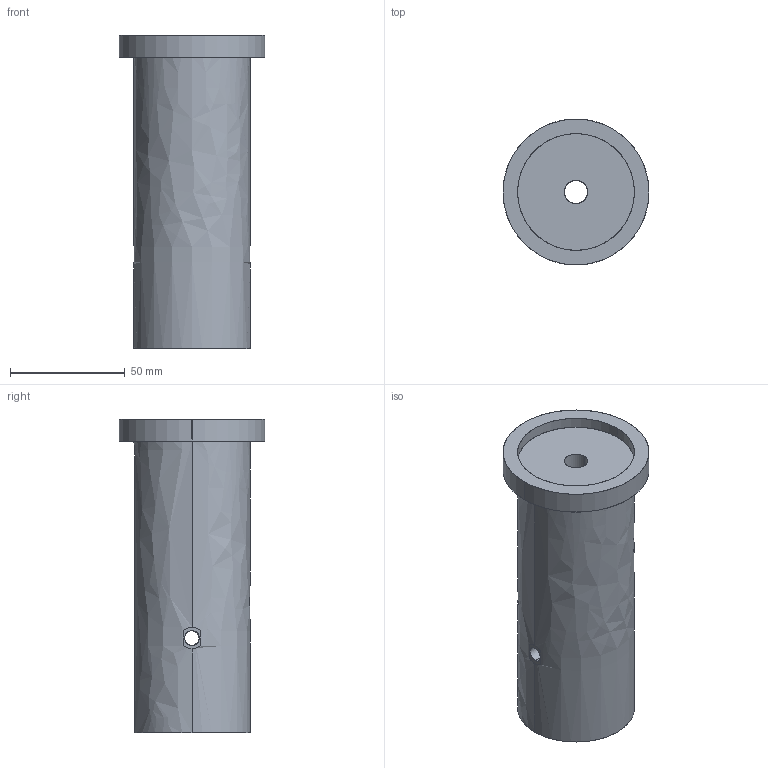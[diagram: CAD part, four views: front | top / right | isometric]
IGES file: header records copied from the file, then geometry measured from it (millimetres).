
Start section: SolidWorks IGES FILE using analytic representation for surfaces
Global section: file name: G:\Work In Progress\900252_ROV Marker Tool\900252-Release_Drawings\Plunger.IGS; native system: SolidWorks 2003 by SolidWorks Corporation; preprocessor: Version 5.3; author: mob; date: 030129.110329; units: inch
Bounding box: 63.5 x 63.5 x 136.53 mm (x, y, z)
Surface area: 37507.2 mm2 (no closed solid volume)
Topology: 0 solids, 0 shells, 38 faces, 922 edges, 922 vertices
Faces by surface type: revolution 22, bspline 16
